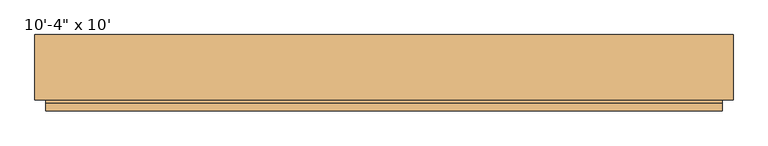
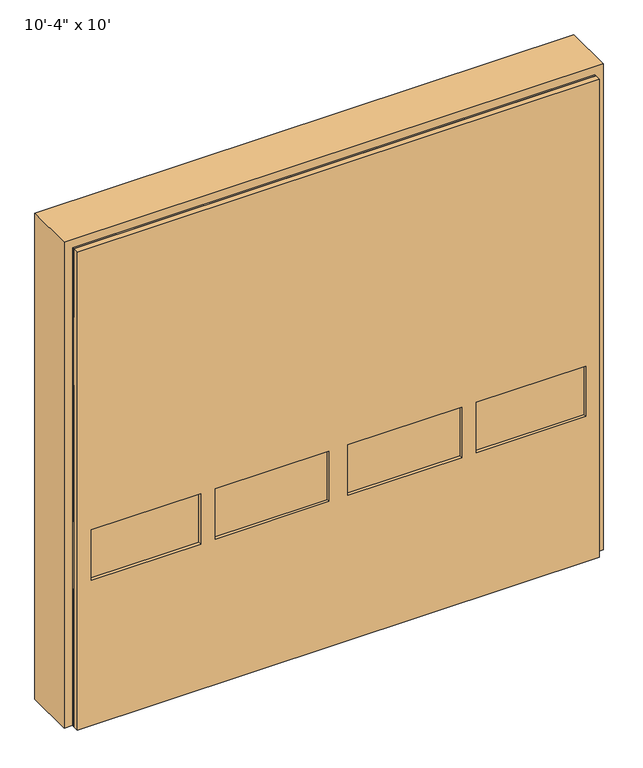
"""IFC4 building model written with IfcOpenShell, lengths in millimetres: door geometry."""

from ifc_helpers import new_model, si_unit, frame, origin, origin_with_axes, place, context, project, spatial, polyline, outline, extrude, source, transform, mapped, element, save


def door_684b8264(model_context):
    return source(origin(), model_context, "Body", "SweptSolid", [
        extrude(outline(polyline([(-1661.8751217, -304.8), (1487.7248783, -304.8), (1487.7248783, -317.5), (-1661.8751217, -317.5), (-1661.8751217, -304.8)])), frame((0.0, 0.0, 1306.2857143), z_axis=(0.0, 0.0, 1.0), x_axis=(1.0, 0.0, 0.0)), (0.0, 0.0, 1.0), 435.4285714),
        extrude(outline(polyline([(-1661.8751217, -304.8), (1487.7248783, -304.8), (1487.7248783, -317.5), (-1661.8751217, -317.5), (-1661.8751217, -304.8)])), frame((0.0, 0.0, 435.4285714), z_axis=(0.0, 0.0, 1.0), x_axis=(1.0, 0.0, 0.0)), (0.0, 0.0, 1.0), 435.4285714),
        extrude(outline(polyline([(-1661.8751217, -304.8), (1487.7248783, -304.8), (1487.7248783, -317.5), (-1661.8751217, -317.5), (-1661.8751217, -304.8)])), frame((0.0, 0.0, 1741.7142857), z_axis=(0.0, 0.0, 1.0), x_axis=(1.0, 0.0, 0.0)), (0.0, 0.0, 1.0), 435.4285714),
        extrude(outline(polyline([(-1661.8751217, -304.8), (1487.7248783, -304.8), (1487.7248783, -317.5), (-1661.8751217, -317.5), (-1661.8751217, -304.8)])), frame((0.0, 0.0, 2612.5714286), z_axis=(0.0, 0.0, 1.0), x_axis=(1.0, 0.0, 0.0)), (0.0, 0.0, 1.0), 435.4285714),
        extrude(outline(polyline([(-1661.8751217, -304.8), (1487.7248783, -304.8), (1487.7248783, -317.5), (-1661.8751217, -317.5), (-1661.8751217, -304.8)])), origin_with_axes(), (0.0, 0.0, 1.0), 435.4285714),
        extrude(outline(polyline([(744.7748783, -311.15), (1405.1748783, -311.15), (1405.1748783, -336.55), (744.7748783, -336.55), (744.7748783, -311.15)])), frame((0.0, 0.0, 928.0071429), z_axis=(0.0, 0.0, 1.0), x_axis=(1.0, 0.0, 0.0)), (0.0, 0.0, 1.0), 321.1285714),
        extrude(outline(polyline([(-29.9251217, -311.15), (655.8748783, -311.15), (655.8748783, -336.55), (-29.9251217, -336.55), (-29.9251217, -311.15)])), frame((0.0, 0.0, 928.0071429), z_axis=(0.0, 0.0, 1.0), x_axis=(1.0, 0.0, 0.0)), (0.0, 0.0, 1.0), 321.1285714),
        extrude(outline(polyline([(-830.0251217, -311.15), (-144.2251217, -311.15), (-144.2251217, -336.55), (-830.0251217, -336.55), (-830.0251217, -311.15)])), frame((0.0, 0.0, 928.0071429), z_axis=(0.0, 0.0, 1.0), x_axis=(1.0, 0.0, 0.0)), (0.0, 0.0, 1.0), 321.1285714),
        extrude(outline(polyline([(-1579.3251217, -311.15), (-918.9251217, -311.15), (-918.9251217, -336.55), (-1579.3251217, -336.55), (-1579.3251217, -311.15)])), frame((0.0, 0.0, 928.0071429), z_axis=(0.0, 0.0, 1.0), x_axis=(1.0, 0.0, 0.0)), (0.0, 0.0, 1.0), 321.1285714),
        extrude(outline(polyline([(1306.2857143, -1661.8751217), (870.8571429, -1661.8751217), (870.8571429, 1487.7248783), (1306.2857143, 1487.7248783), (1306.2857143, -1661.8751217)]), holes=[polyline([(1255.4857143, 738.4248783), (1255.4857143, 1411.5248783), (921.6571429, 1411.5248783), (921.6571429, 738.4248783), (1255.4857143, 738.4248783)]), polyline([(1255.4857143, -36.2751217), (1255.4857143, 662.2248783), (921.6571429, 662.2248783), (921.6571429, -36.2751217), (1255.4857143, -36.2751217)]), polyline([(1255.4857143, -836.3751217), (1255.4857143, -137.8751217), (921.6571429, -137.8751217), (921.6571429, -836.3751217), (1255.4857143, -836.3751217)]), polyline([(1255.4857143, -1585.6751217), (1255.4857143, -912.5751217), (921.6571429, -912.5751217), (921.6571429, -1585.6751217), (1255.4857143, -1585.6751217)])]), frame((0.0, -317.5, 0.0), z_axis=(0.0, 1.0, 0.0), x_axis=(0.0, 0.0, 1.0)), (0.0, 0.0, 1.0), 12.7),
        extrude(outline(polyline([(3048.0, 1487.7248783), (0.0, 1487.7248783), (0.0, 1538.5248783), (3098.8, 1538.5248783), (3098.8, -1712.6751217), (0.0, -1712.6751217), (0.0, -1661.8751217), (3048.0, -1661.8751217), (3048.0, 1487.7248783)])), frame((0.0, -304.8, 0.0), z_axis=(0.0, 1.0, 0.0), x_axis=(0.0, 0.0, 1.0)), (0.0, 0.0, 1.0), 304.8),
        extrude(outline(polyline([(3048.0, -1661.8751217), (0.0, -1661.8751217), (0.0, 1487.7248783), (3048.0, 1487.7248783), (3048.0, -1661.8751217)]), holes=[polyline([(928.0071429, 744.7748783), (1249.1357143, 744.7748783), (1249.1357143, 1405.1748783), (928.0071429, 1405.1748783), (928.0071429, 744.7748783)]), polyline([(928.0071429, -29.9251217), (1249.1357143, -29.9251217), (1249.1357143, 655.8748783), (928.0071429, 655.8748783), (928.0071429, -29.9251217)]), polyline([(928.0071429, -830.0251217), (1249.1357143, -830.0251217), (1249.1357143, -144.2251217), (928.0071429, -144.2251217), (928.0071429, -830.0251217)]), polyline([(928.0071429, -1579.3251217), (1249.1357143, -1579.3251217), (1249.1357143, -918.9251217), (928.0071429, -918.9251217), (928.0071429, -1579.3251217)])]), frame((0.0, -355.6, 0.0), z_axis=(0.0, 1.0, 0.0), x_axis=(0.0, 0.0, 1.0)), (0.0, 0.0, 1.0), 38.1),
        extrude(outline(polyline([(-1661.8751217, -304.8), (1487.7248783, -304.8), (1487.7248783, -317.5), (-1661.8751217, -317.5), (-1661.8751217, -304.8)])), frame((0.0, 0.0, 2177.1428571), z_axis=(0.0, 0.0, 1.0), x_axis=(1.0, 0.0, 0.0)), (0.0, 0.0, 1.0), 435.4285714),
    ])


if __name__ == "__main__":
    model = new_model("IFC4")
    model_context = context("Model", 3, world=origin())
    ifc_project = project(units=[si_unit("LENGTHUNIT", "METRE", prefix="MILLI")], contexts=[model_context])
    site = spatial("IfcSite", under=ifc_project)
    building = spatial("IfcBuilding", under=site)
    placement = place(None, origin())
    door_shape = door_684b8264(model_context)
    element("IfcDoor", 1, ObjectType="OH-doorwithglass_BA : 10'-4\" x 10'", at=placement, inside=building, context=model_context, shape_type="MappedRepresentation", body=[
        mapped(door_shape, transform((0.0, 0.0, 0.0), x_axis=(1.0, 0.0, 0.0), y_axis=(0.0, 1.0, 0.0), z_axis=(0.0, 0.0, 1.0))),
    ])
    save(model, "model.ifc")
